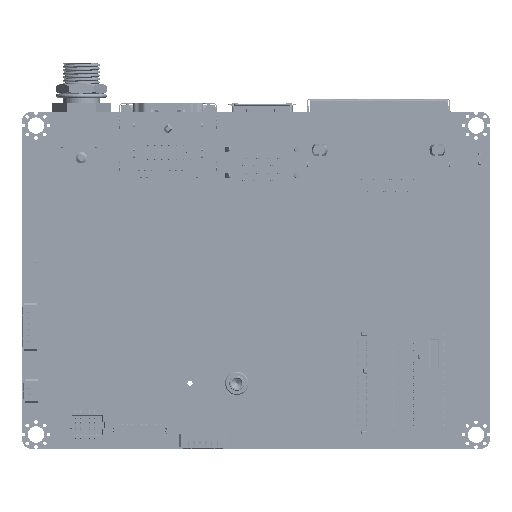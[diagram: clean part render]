
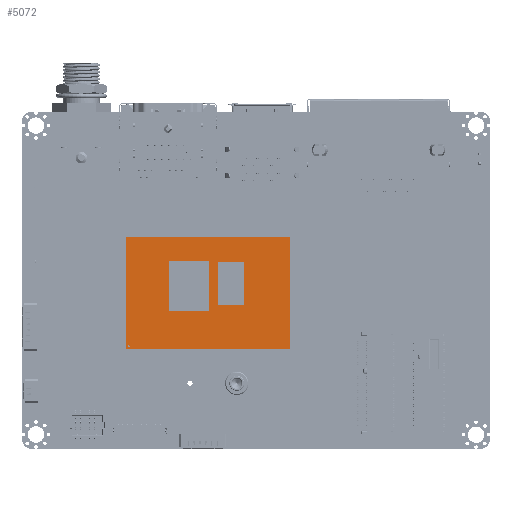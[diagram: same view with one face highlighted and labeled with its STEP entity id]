
A CAD part, front view. The second image highlights one B-rep face of the part: STEP entity #5072.
In plain terms, the highlighted planar face has unit normal (0, -1, 0) as drawn and (0, 0, 1) by its records, which use the part's own axes.
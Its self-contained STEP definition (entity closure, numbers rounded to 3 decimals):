
#4761=DIRECTION('',(-1.,0.,0.));
#4762=VECTOR('',#4761,35.);
#4763=CARTESIAN_POINT('',(17.5,12.,1.059));
#4764=LINE('',#4763,#4762);
#4769=DIRECTION('',(-1.,0.,0.));
#4770=VECTOR('',#4769,5.756);
#4771=CARTESIAN_POINT('',(7.862,-2.703,1.059));
#4772=LINE('',#4771,#4770);
#4773=DIRECTION('',(0.,-1.,0.));
#4774=VECTOR('',#4773,9.224);
#4775=CARTESIAN_POINT('',(7.862,6.521,1.059));
#4776=LINE('',#4775,#4774);
#4777=DIRECTION('',(1.,0.,0.));
#4778=VECTOR('',#4777,5.756);
#4779=CARTESIAN_POINT('',(2.106,6.521,1.059));
#4780=LINE('',#4779,#4778);
#4781=DIRECTION('',(0.,1.,0.));
#4782=VECTOR('',#4781,9.224);
#4783=CARTESIAN_POINT('',(2.106,-2.703,1.059));
#4784=LINE('',#4783,#4782);
#4785=DIRECTION('',(-1.,0.,0.));
#4786=VECTOR('',#4785,8.495);
#4787=CARTESIAN_POINT('',(0.324,-3.871,1.059));
#4788=LINE('',#4787,#4786);
#4789=DIRECTION('',(0.,-1.,0.));
#4790=VECTOR('',#4789,10.709);
#4791=CARTESIAN_POINT('',(0.324,6.839,1.059));
#4792=LINE('',#4791,#4790);
#4793=DIRECTION('',(1.,0.,0.));
#4794=VECTOR('',#4793,8.495);
#4795=CARTESIAN_POINT('',(-8.172,6.839,1.059));
#4796=LINE('',#4795,#4794);
#4797=DIRECTION('',(0.,1.,0.));
#4798=VECTOR('',#4797,10.709);
#4799=CARTESIAN_POINT('',(-8.172,-3.871,1.059));
#4800=LINE('',#4799,#4798);
#4801=DIRECTION('',(-0.707,0.707,0.));
#4802=VECTOR('',#4801,0.707);
#4803=CARTESIAN_POINT('',(-16.5,-11.5,1.059));
#4804=LINE('',#4803,#4802);
#4805=DIRECTION('',(0.,-1.,0.));
#4806=VECTOR('',#4805,0.5);
#4807=CARTESIAN_POINT('',(-17.,-11.,1.059));
#4808=LINE('',#4807,#4806);
#4809=DIRECTION('',(1.,0.,0.));
#4810=VECTOR('',#4809,0.5);
#4811=CARTESIAN_POINT('',(-17.,-11.5,1.059));
#4812=LINE('',#4811,#4810);
#4877=DIRECTION('',(0.,1.,0.));
#4878=VECTOR('',#4877,24.);
#4879=CARTESIAN_POINT('',(17.5,-12.,1.059));
#4880=LINE('',#4879,#4878);
#4885=DIRECTION('',(1.,0.,0.));
#4886=VECTOR('',#4885,35.);
#4887=CARTESIAN_POINT('',(-17.5,-12.,1.059));
#4888=LINE('',#4887,#4886);
#4893=DIRECTION('',(0.,-1.,0.));
#4894=VECTOR('',#4893,24.);
#4895=CARTESIAN_POINT('',(-17.5,12.,1.059));
#4896=LINE('',#4895,#4894);
#4933=CARTESIAN_POINT('',(7.862,6.521,1.059));
#4934=CARTESIAN_POINT('',(7.862,-2.703,1.059));
#4935=VERTEX_POINT('',#4933);
#4936=VERTEX_POINT('',#4934);
#4937=CARTESIAN_POINT('',(2.106,6.521,1.059));
#4938=VERTEX_POINT('',#4937);
#4939=CARTESIAN_POINT('',(2.106,-2.703,1.059));
#4940=VERTEX_POINT('',#4939);
#4941=CARTESIAN_POINT('',(0.324,6.839,1.059));
#4942=CARTESIAN_POINT('',(0.324,-3.871,1.059));
#4943=VERTEX_POINT('',#4941);
#4944=VERTEX_POINT('',#4942);
#4945=CARTESIAN_POINT('',(-8.172,6.839,1.059));
#4946=VERTEX_POINT('',#4945);
#4947=CARTESIAN_POINT('',(-8.172,-3.871,1.059));
#4948=VERTEX_POINT('',#4947);
#4965=CARTESIAN_POINT('',(17.5,12.,1.059));
#4966=CARTESIAN_POINT('',(-17.5,12.,1.059));
#4967=VERTEX_POINT('',#4965);
#4968=VERTEX_POINT('',#4966);
#4969=CARTESIAN_POINT('',(-17.5,-12.,1.059));
#4970=VERTEX_POINT('',#4969);
#4971=CARTESIAN_POINT('',(17.5,-12.,1.059));
#4972=VERTEX_POINT('',#4971);
#4979=CARTESIAN_POINT('',(-16.5,-11.5,1.059));
#4980=CARTESIAN_POINT('',(-17.,-11.,1.059));
#4981=VERTEX_POINT('',#4979);
#4982=VERTEX_POINT('',#4980);
#4983=CARTESIAN_POINT('',(-17.,-11.5,1.059));
#4984=VERTEX_POINT('',#4983);
#5030=CARTESIAN_POINT('',(0.,12.,1.059));
#5031=DIRECTION('',(0.,0.,1.));
#5032=DIRECTION('',(-1.,0.,0.));
#5033=AXIS2_PLACEMENT_3D('',#5030,#5031,#5032);
#5034=PLANE('',#5033);
#5035=ORIENTED_EDGE('',*,*,#5013,.F.);
#5037=ORIENTED_EDGE('',*,*,#5036,.F.);
#5039=ORIENTED_EDGE('',*,*,#5038,.F.);
#5041=ORIENTED_EDGE('',*,*,#5040,.F.);
#5042=EDGE_LOOP('',(#5035,#5037,#5039,#5041));
#5043=FACE_OUTER_BOUND('',#5042,.F.);
#5045=ORIENTED_EDGE('',*,*,#5044,.F.);
#5047=ORIENTED_EDGE('',*,*,#5046,.F.);
#5049=ORIENTED_EDGE('',*,*,#5048,.F.);
#5051=ORIENTED_EDGE('',*,*,#5050,.F.);
#5052=EDGE_LOOP('',(#5045,#5047,#5049,#5051));
#5053=FACE_BOUND('',#5052,.F.);
#5055=ORIENTED_EDGE('',*,*,#5054,.F.);
#5057=ORIENTED_EDGE('',*,*,#5056,.F.);
#5059=ORIENTED_EDGE('',*,*,#5058,.F.);
#5061=ORIENTED_EDGE('',*,*,#5060,.F.);
#5062=EDGE_LOOP('',(#5055,#5057,#5059,#5061));
#5063=FACE_BOUND('',#5062,.F.);
#5065=ORIENTED_EDGE('',*,*,#5064,.T.);
#5067=ORIENTED_EDGE('',*,*,#5066,.T.);
#5069=ORIENTED_EDGE('',*,*,#5068,.T.);
#5070=EDGE_LOOP('',(#5065,#5067,#5069));
#5071=FACE_BOUND('',#5070,.F.);
#5072=ADVANCED_FACE('',(#5043,#5053,#5063,#5071),#5034,.T.);
#5013=EDGE_CURVE('',#4967,#4968,#4764,.T.);
#5036=EDGE_CURVE('',#4972,#4967,#4880,.T.);
#5038=EDGE_CURVE('',#4970,#4972,#4888,.T.);
#5040=EDGE_CURVE('',#4968,#4970,#4896,.T.);
#5044=EDGE_CURVE('',#4944,#4948,#4788,.T.);
#5046=EDGE_CURVE('',#4943,#4944,#4792,.T.);
#5048=EDGE_CURVE('',#4946,#4943,#4796,.T.);
#5050=EDGE_CURVE('',#4948,#4946,#4800,.T.);
#5054=EDGE_CURVE('',#4936,#4940,#4772,.T.);
#5056=EDGE_CURVE('',#4935,#4936,#4776,.T.);
#5058=EDGE_CURVE('',#4938,#4935,#4780,.T.);
#5060=EDGE_CURVE('',#4940,#4938,#4784,.T.);
#5064=EDGE_CURVE('',#4981,#4982,#4804,.T.);
#5066=EDGE_CURVE('',#4982,#4984,#4808,.T.);
#5068=EDGE_CURVE('',#4984,#4981,#4812,.T.);
